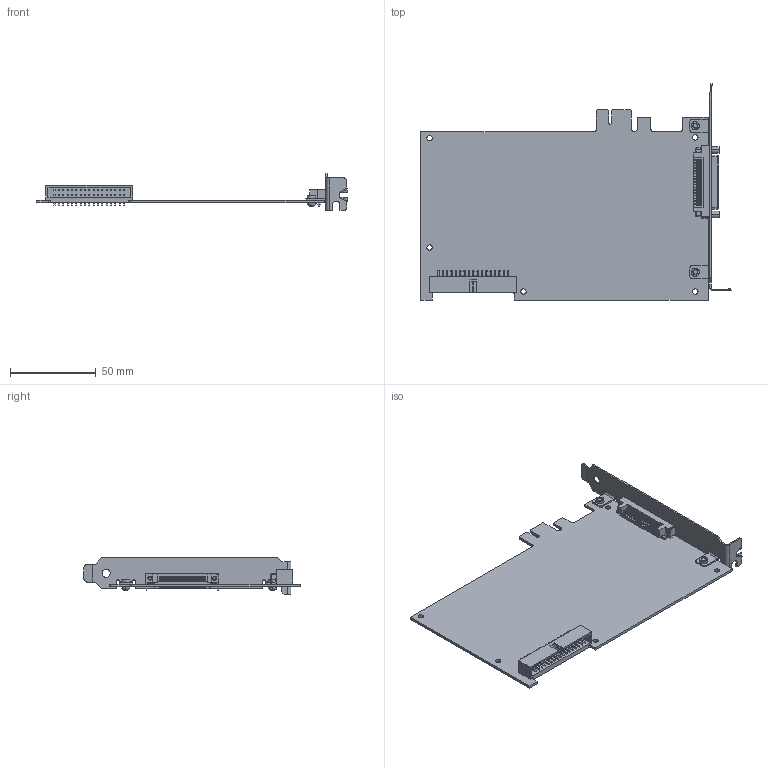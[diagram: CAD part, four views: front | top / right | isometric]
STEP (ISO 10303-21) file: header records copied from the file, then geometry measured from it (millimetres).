
FILE_DESCRIPTION((''),'2;1');
FILE_NAME('CU_PCIE-6537','2009-12-28T',('jjorden'),(''),'PRO/ENGINEER BY PARAMETRIC TECHNOLOGY CORPORATION, 2006080','PRO/ENGINEER BY PARAMETRIC TECHNOLOGY CORPORATION, 2006080','');
FILE_SCHEMA(('CONFIG_CONTROL_DESIGN'));
Products named in the file (1): CU_PCIE-6537
Bounding box: 181.05 x 126.27 x 21.59 mm (x, y, z)
Volume: 32393.8 mm3; surface area: 44908.1 mm2
Topology: 2 solids, 2 shells, 2018 faces, 6215 edges, 4072 vertices
Faces by surface type: plane 1485, cylinder 471, bspline 23, cone 16, torus 13, sphere 8, extrusion 2
Entity records: 70454 total; most frequent: CARTESIAN_POINT 13242, ORIENTED_EDGE 12414, DIRECTION 11213, EDGE_CURVE 6207, VECTOR 5111, LINE 5109, VERTEX_POINT 4110, AXIS2_PLACEMENT_3D 3051
